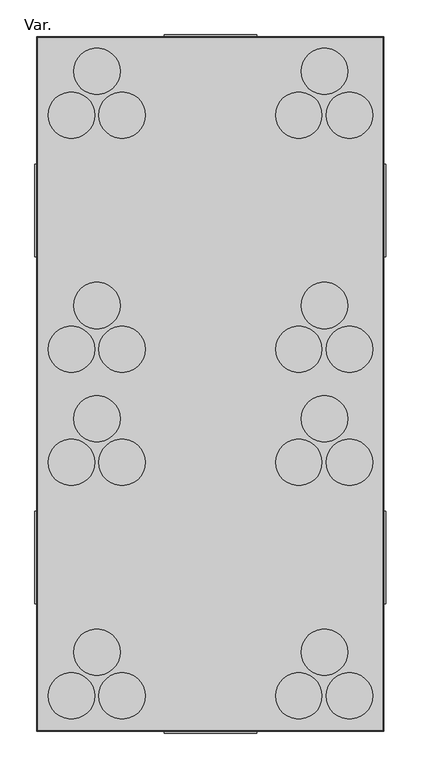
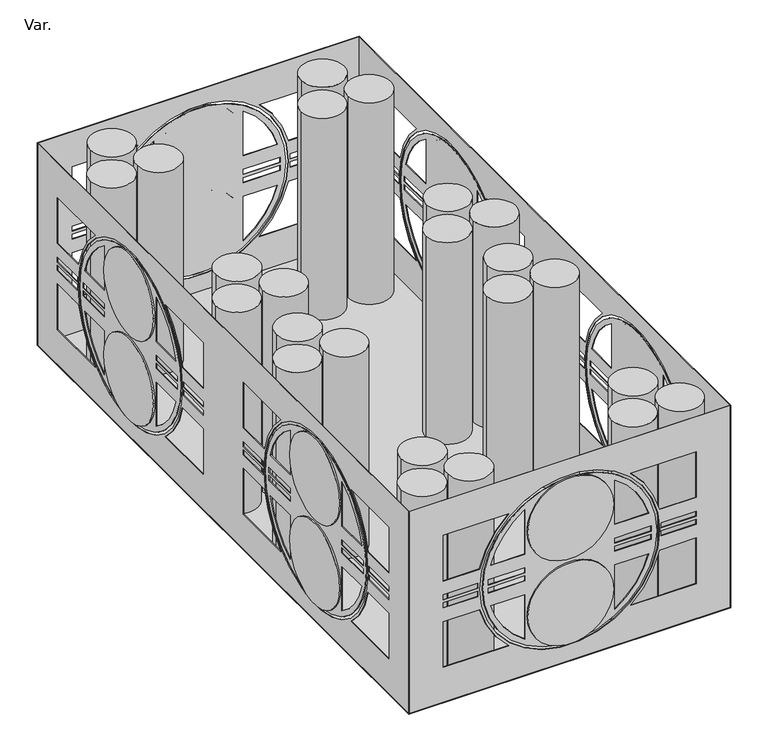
"""IFC4 building model written with IfcOpenShell, lengths in millimetres: proxy geometry, AmancoWavin_AquaCell NG : Var.."""

from ifc_helpers import new_model, si_unit, point, frame, frame_2d, origin, origin_with_axes, place, context, project, spatial, polyline, circle_curve, trimmed, segment, composite_curve, outline, extrude, source, transform, mapped, element, save


def var_ef881a78(model_context):
    return source(origin(), model_context, "Body", "SweptSolid", [
        extrude(outline(composite_curve([segment(trimmed(circle_curve(frame_2d((-300.0, 283.75)), 80.0), [point((-380.0, 283.75))], [point((-220.0, 283.75))], False, "CARTESIAN"), True, "CONTINUOUS"), segment(trimmed(circle_curve(frame_2d((-300.0, 283.75)), 80.0), [point((-220.0, 283.75))], [point((-380.0, 283.75))], False, "CARTESIAN"), True, "CONTINUOUS")], self_intersect=False)), frame((-303.0, 0.0, 0.0), z_axis=(1.0, 0.0, 0.0), x_axis=(0.0, 1.0, 0.0)), (0.0, 0.0, 1.0), 3.0),
        extrude(outline(composite_curve([segment(trimmed(circle_curve(frame_2d((300.0, 283.75)), 80.0), [point((220.0, 283.75))], [point((380.0, 283.75))], False, "CARTESIAN"), True, "CONTINUOUS"), segment(trimmed(circle_curve(frame_2d((300.0, 283.75)), 80.0), [point((380.0, 283.75))], [point((220.0, 283.75))], False, "CARTESIAN"), True, "CONTINUOUS")], self_intersect=False)), frame((-303.0, 0.0, 0.0), z_axis=(1.0, 0.0, 0.0), x_axis=(0.0, 1.0, 0.0)), (0.0, 0.0, 1.0), 3.0),
        extrude(outline(composite_curve([segment(trimmed(circle_curve(frame_2d((300.0, 116.25)), 80.0), [point((220.0, 116.25))], [point((380.0, 116.25))], False, "CARTESIAN"), True, "CONTINUOUS"), segment(trimmed(circle_curve(frame_2d((300.0, 116.25)), 80.0), [point((380.0, 116.25))], [point((220.0, 116.25))], False, "CARTESIAN"), True, "CONTINUOUS")], self_intersect=False)), frame((-303.0, 0.0, 0.0), z_axis=(1.0, 0.0, 0.0), x_axis=(0.0, 1.0, 0.0)), (0.0, 0.0, 1.0), 3.0),
        extrude(outline(composite_curve([segment(trimmed(circle_curve(frame_2d((-300.0, 116.25)), 80.0), [point((-380.0, 116.25))], [point((-220.0, 116.25))], False, "CARTESIAN"), True, "CONTINUOUS"), segment(trimmed(circle_curve(frame_2d((-300.0, 116.25)), 80.0), [point((-220.0, 116.25))], [point((-380.0, 116.25))], False, "CARTESIAN"), True, "CONTINUOUS")], self_intersect=False)), frame((-303.0, 0.0, 0.0), z_axis=(1.0, 0.0, 0.0), x_axis=(0.0, 1.0, 0.0)), (0.0, 0.0, 1.0), 3.0),
        extrude(outline(composite_curve([segment(trimmed(circle_curve(frame_2d((-300.0, 283.75)), 80.0), [point((-380.0, 283.75))], [point((-220.0, 283.75))], False, "CARTESIAN"), True, "CONTINUOUS"), segment(trimmed(circle_curve(frame_2d((-300.0, 283.75)), 80.0), [point((-220.0, 283.75))], [point((-380.0, 283.75))], False, "CARTESIAN"), True, "CONTINUOUS")], self_intersect=False)), frame((300.0, 0.0, 0.0), z_axis=(1.0, 0.0, 0.0), x_axis=(0.0, 1.0, 0.0)), (0.0, 0.0, 1.0), 3.0),
        extrude(outline(composite_curve([segment(trimmed(circle_curve(frame_2d((300.0, 283.75)), 80.0), [point((220.0, 283.75))], [point((380.0, 283.75))], False, "CARTESIAN"), True, "CONTINUOUS"), segment(trimmed(circle_curve(frame_2d((300.0, 283.75)), 80.0), [point((380.0, 283.75))], [point((220.0, 283.75))], False, "CARTESIAN"), True, "CONTINUOUS")], self_intersect=False)), frame((300.0, 0.0, 0.0), z_axis=(1.0, 0.0, 0.0), x_axis=(0.0, 1.0, 0.0)), (0.0, 0.0, 1.0), 3.0),
        extrude(outline(composite_curve([segment(trimmed(circle_curve(frame_2d((-300.0, 116.25)), 80.0), [point((-380.0, 116.25))], [point((-220.0, 116.25))], False, "CARTESIAN"), True, "CONTINUOUS"), segment(trimmed(circle_curve(frame_2d((-300.0, 116.25)), 80.0), [point((-220.0, 116.25))], [point((-380.0, 116.25))], False, "CARTESIAN"), True, "CONTINUOUS")], self_intersect=False)), frame((300.0, 0.0, 0.0), z_axis=(1.0, 0.0, 0.0), x_axis=(0.0, 1.0, 0.0)), (0.0, 0.0, 1.0), 3.0),
        extrude(outline(composite_curve([segment(trimmed(circle_curve(frame_2d((300.0, 116.25)), 80.0), [point((220.0, 116.25))], [point((380.0, 116.25))], False, "CARTESIAN"), True, "CONTINUOUS"), segment(trimmed(circle_curve(frame_2d((300.0, 116.25)), 80.0), [point((380.0, 116.25))], [point((220.0, 116.25))], False, "CARTESIAN"), True, "CONTINUOUS")], self_intersect=False)), frame((300.0, 0.0, 0.0), z_axis=(1.0, 0.0, 0.0), x_axis=(0.0, 1.0, 0.0)), (0.0, 0.0, 1.0), 3.0),
        extrude(outline(composite_curve([segment(trimmed(circle_curve(frame_2d((283.75, 0.0)), 80.0), [point((283.75, -80.0))], [point((283.75, 80.0))], False, "CARTESIAN"), True, "CONTINUOUS"), segment(trimmed(circle_curve(frame_2d((283.75, 0.0)), 80.0), [point((283.75, 80.0))], [point((283.75, -80.0))], False, "CARTESIAN"), True, "CONTINUOUS")], self_intersect=False)), frame((0.0, 600.0, 0.0), z_axis=(0.0, 1.0, 0.0), x_axis=(0.0, 0.0, 1.0)), (0.0, 0.0, 1.0), 3.0),
        extrude(outline(composite_curve([segment(trimmed(circle_curve(frame_2d((116.25, 0.0)), 80.0), [point((116.25, -80.0))], [point((116.25, 80.0))], False, "CARTESIAN"), True, "CONTINUOUS"), segment(trimmed(circle_curve(frame_2d((116.25, 0.0)), 80.0), [point((116.25, 80.0))], [point((116.25, -80.0))], False, "CARTESIAN"), True, "CONTINUOUS")], self_intersect=False)), frame((0.0, 600.0, 0.0), z_axis=(0.0, 1.0, 0.0), x_axis=(0.0, 0.0, 1.0)), (0.0, 0.0, 1.0), 3.0),
        extrude(outline(composite_curve([segment(trimmed(circle_curve(frame_2d((283.75, 0.0)), 80.0), [point((283.75, -80.0))], [point((283.75, 80.0))], False, "CARTESIAN"), True, "CONTINUOUS"), segment(trimmed(circle_curve(frame_2d((283.75, 0.0)), 80.0), [point((283.75, 80.0))], [point((283.75, -80.0))], False, "CARTESIAN"), True, "CONTINUOUS")], self_intersect=False)), frame((0.0, -603.0, 0.0), z_axis=(0.0, 1.0, 0.0), x_axis=(0.0, 0.0, 1.0)), (0.0, 0.0, 1.0), 3.0),
        extrude(outline(composite_curve([segment(trimmed(circle_curve(frame_2d((116.25, 0.0)), 80.0), [point((116.25, -80.0))], [point((116.25, 80.0))], False, "CARTESIAN"), True, "CONTINUOUS"), segment(trimmed(circle_curve(frame_2d((116.25, 0.0)), 80.0), [point((116.25, 80.0))], [point((116.25, -80.0))], False, "CARTESIAN"), True, "CONTINUOUS")], self_intersect=False)), frame((0.0, -603.0, 0.0), z_axis=(0.0, 1.0, 0.0), x_axis=(0.0, 0.0, 1.0)), (0.0, 0.0, 1.0), 3.0),
        extrude(outline(polyline([(300.0, 600.0), (300.0, -600.0), (-300.0, -600.0), (-300.0, 600.0), (300.0, 600.0)])), origin_with_axes(), (0.0, 0.0, 1.0), 1.0),
        extrude(outline(polyline([(399.0, 300.0), (399.0, -300.0), (0.0, -300.0), (0.0, 300.0), (399.0, 300.0)]), holes=[composite_curve([segment(polyline([(240.0, 235.6231509), (240.0, 167.7982419)]), True, "CONTINUOUS"), segment(trimmed(circle_curve(frame_2d((200.0, 0.0)), 172.5), [point((240.0, 167.7982419))], [point((330.0, 113.3854047))], False, "CARTESIAN"), True, "CONTINUOUS"), segment(polyline([(330.0, 113.3854047), (330.0, 235.6231509), (240.0, 235.6231509)]), True, "CONTINUOUS")], self_intersect=False), composite_curve([segment(trimmed(circle_curve(frame_2d((200.0, 0.0)), 167.5), [point((200.0, 167.5))], [point((200.0, -167.5))], True, "CARTESIAN"), True, "CONTINUOUS"), segment(trimmed(circle_curve(frame_2d((200.0, 0.0)), 167.5), [point((200.0, -167.5))], [point((200.0, 167.5))], True, "CARTESIAN"), True, "CONTINUOUS")], self_intersect=False), polyline([(213.0, 235.6231509), (203.0, 235.6231509), (203.0, 171.1131509), (213.0, 171.1131509), (213.0, 235.6231509)]), polyline([(187.0, 235.6231509), (187.0, 171.1131509), (197.0, 171.1131509), (197.0, 235.6231509), (187.0, 235.6231509)]), composite_curve([segment(polyline([(70.0, 235.6231509), (70.0, 113.3854047)]), True, "CONTINUOUS"), segment(trimmed(circle_curve(frame_2d((200.0, 0.0)), 172.5), [point((70.0, 113.3854047))], [point((160.0, 167.7982419))], False, "CARTESIAN"), True, "CONTINUOUS"), segment(polyline([(160.0, 167.7982419), (160.0, 235.6231509), (70.0, 235.6231509)]), True, "CONTINUOUS")], self_intersect=False), composite_curve([segment(trimmed(circle_curve(frame_2d((200.0, 0.0)), 172.5), [point((160.0, -167.7982419))], [point((70.0, -113.3854047))], False, "CARTESIAN"), True, "CONTINUOUS"), segment(polyline([(70.0, -113.3854047), (70.0, -235.6231509), (160.0, -235.6231509), (160.0, -167.7982419)]), True, "CONTINUOUS")], self_intersect=False), polyline([(213.0, -235.6231509), (213.0, -171.1131509), (203.0, -171.1131509), (203.0, -235.6231509), (213.0, -235.6231509)]), polyline([(197.0, -235.6231509), (197.0, -171.1131509), (187.0, -171.1131509), (187.0, -235.6231509), (197.0, -235.6231509)]), composite_curve([segment(polyline([(240.0, -167.7982419), (240.0, -235.6231509), (330.0, -235.6231509), (330.0, -113.3854047)]), True, "CONTINUOUS"), segment(trimmed(circle_curve(frame_2d((200.0, 0.0)), 172.5), [point((330.0, -113.3854047))], [point((240.0, -167.7982419))], False, "CARTESIAN"), True, "CONTINUOUS")], self_intersect=False)]), frame((0.0, 599.0, 0.0), z_axis=(0.0, 1.0, 0.0), x_axis=(0.0, 0.0, 1.0)), (0.0, 0.0, 1.0), 1.0),
        extrude(outline(composite_curve([segment(trimmed(circle_curve(frame_2d((200.0, 0.0)), 162.5), [point((200.0, -162.5))], [point((200.0, 162.5))], False, "CARTESIAN"), True, "CONTINUOUS"), segment(trimmed(circle_curve(frame_2d((200.0, 0.0)), 162.5), [point((200.0, 162.5))], [point((200.0, -162.5))], False, "CARTESIAN"), True, "CONTINUOUS")], self_intersect=False), holes=[composite_curve([segment(polyline([(72.5123968, 83.6848913), (160.0, 83.6848913), (160.0, 147.1606265)]), True, "CONTINUOUS"), segment(trimmed(circle_curve(frame_2d((200.0, 0.0)), 152.5), [point((160.0, 147.1606265))], [point((72.5123968, 83.6848913))], True, "CARTESIAN"), True, "CONTINUOUS")], self_intersect=False), polyline([(203.0, 151.9448913), (203.0, 83.6848913), (213.0, 83.6848913), (213.0, 151.9448913), (203.0, 151.9448913)]), polyline([(197.0, 83.6848913), (197.0, 151.9448913), (187.0, 151.9448913), (187.0, 83.6848913), (197.0, 83.6848913)]), composite_curve([segment(polyline([(240.0, 147.1606265), (240.0, 83.6848913), (327.4876032, 83.6848913)]), True, "CONTINUOUS"), segment(trimmed(circle_curve(frame_2d((200.0, 0.0)), 152.5), [point((327.4876032, 83.6848913))], [point((240.0, 147.1606265))], True, "CARTESIAN"), True, "CONTINUOUS")], self_intersect=False), composite_curve([segment(trimmed(circle_curve(frame_2d((200.0, 0.0)), 152.5), [point((72.5123968, -83.6848913))], [point((160.0, -147.1606265))], True, "CARTESIAN"), True, "CONTINUOUS"), segment(polyline([(160.0, -147.1606265), (160.0, -83.6848913), (72.5123968, -83.6848913)]), True, "CONTINUOUS")], self_intersect=False), composite_curve([segment(polyline([(240.0, -83.6848913), (240.0, -147.1606265)]), True, "CONTINUOUS"), segment(trimmed(circle_curve(frame_2d((200.0, 0.0)), 152.5), [point((240.0, -147.1606265))], [point((327.4876032, -83.6848913))], True, "CARTESIAN"), True, "CONTINUOUS"), segment(polyline([(327.4876032, -83.6848913), (240.0, -83.6848913)]), True, "CONTINUOUS")], self_intersect=False), polyline([(213.0, -83.6848913), (203.0, -83.6848913), (203.0, -151.9448913), (213.0, -151.9448913), (213.0, -83.6848913)]), polyline([(197.0, -151.9448913), (197.0, -83.6848913), (187.0, -83.6848913), (187.0, -151.9448913), (197.0, -151.9448913)])]), frame((0.0, 599.0, 0.0), z_axis=(0.0, 1.0, 0.0), x_axis=(0.0, 0.0, 1.0)), (0.0, 0.0, 1.0), 1.0),
        extrude(outline(polyline([(600.0, 399.0), (600.0, 0.0), (-600.0, 0.0), (-600.0, 399.0), (600.0, 399.0)]), holes=[composite_curve([segment(polyline([(535.6231509, 240.0), (535.6231509, 330.0), (413.3854047, 330.0)]), True, "CONTINUOUS"), segment(trimmed(circle_curve(frame_2d((300.0, 200.0)), 172.5), [point((413.3854047, 330.0))], [point((467.7982419, 240.0))], False, "CARTESIAN"), True, "CONTINUOUS"), segment(polyline([(467.7982419, 240.0), (535.6231509, 240.0)]), True, "CONTINUOUS")], self_intersect=False), composite_curve([segment(trimmed(circle_curve(frame_2d((300.0, 200.0)), 167.5), [point((467.5, 200.0))], [point((132.5, 200.0))], True, "CARTESIAN"), True, "CONTINUOUS"), segment(trimmed(circle_curve(frame_2d((300.0, 200.0)), 167.5), [point((132.5, 200.0))], [point((467.5, 200.0))], True, "CARTESIAN"), True, "CONTINUOUS")], self_intersect=False), polyline([(535.6231509, 203.0), (535.6231509, 213.0), (471.0344201, 213.0), (471.0344201, 203.0), (535.6231509, 203.0)]), polyline([(535.6231509, 197.0), (471.0344201, 197.0), (471.0344201, 187.0), (535.6231509, 187.0), (535.6231509, 197.0)]), composite_curve([segment(polyline([(535.6231509, 160.0), (467.7982419, 160.0)]), True, "CONTINUOUS"), segment(trimmed(circle_curve(frame_2d((300.0, 200.0)), 172.5), [point((467.7982419, 160.0))], [point((413.3854047, 70.0))], False, "CARTESIAN"), True, "CONTINUOUS"), segment(polyline([(413.3854047, 70.0), (535.6231509, 70.0), (535.6231509, 160.0)]), True, "CONTINUOUS")], self_intersect=False), composite_curve([segment(polyline([(132.2017581, 160.0), (64.3768491, 160.0), (64.3768491, 70.0), (186.6145953, 70.0)]), True, "CONTINUOUS"), segment(trimmed(circle_curve(frame_2d((300.0, 200.0)), 172.5), [point((186.6145953, 70.0))], [point((132.2017581, 160.0))], False, "CARTESIAN"), True, "CONTINUOUS")], self_intersect=False), polyline([(129.5146487, 203.0), (129.5146487, 213.0), (64.3768491, 213.0), (64.3768491, 203.0), (129.5146487, 203.0)]), polyline([(129.5146487, 197.0), (64.3768491, 197.0), (64.3768491, 187.0), (129.5146487, 187.0), (129.5146487, 197.0)]), composite_curve([segment(polyline([(186.6145953, 330.0), (64.3768491, 330.0), (64.3768491, 240.0), (132.2017581, 240.0)]), True, "CONTINUOUS"), segment(trimmed(circle_curve(frame_2d((300.0, 200.0)), 172.5), [point((132.2017581, 240.0))], [point((186.6145953, 330.0))], False, "CARTESIAN"), True, "CONTINUOUS")], self_intersect=False), composite_curve([segment(polyline([(-64.3768491, 240.0), (-64.3768491, 330.0), (-186.6145953, 330.0)]), True, "CONTINUOUS"), segment(trimmed(circle_curve(frame_2d((-300.0, 200.0)), 172.5), [point((-186.6145953, 330.0))], [point((-132.2017581, 240.0))], False, "CARTESIAN"), True, "CONTINUOUS"), segment(polyline([(-132.2017581, 240.0), (-64.3768491, 240.0)]), True, "CONTINUOUS")], self_intersect=False), composite_curve([segment(trimmed(circle_curve(frame_2d((-300.0, 200.0)), 167.5), [point((-132.5, 200.0))], [point((-467.5, 200.0))], True, "CARTESIAN"), True, "CONTINUOUS"), segment(trimmed(circle_curve(frame_2d((-300.0, 200.0)), 167.5), [point((-467.5, 200.0))], [point((-132.5, 200.0))], True, "CARTESIAN"), True, "CONTINUOUS")], self_intersect=False), polyline([(-64.3768491, 203.0), (-64.3768491, 213.0), (-128.9655799, 213.0), (-128.9655799, 203.0), (-64.3768491, 203.0)]), polyline([(-64.3768491, 197.0), (-128.9655799, 197.0), (-128.9655799, 187.0), (-64.3768491, 187.0), (-64.3768491, 197.0)]), composite_curve([segment(polyline([(-64.3768491, 160.0), (-132.2017581, 160.0)]), True, "CONTINUOUS"), segment(trimmed(circle_curve(frame_2d((-300.0, 200.0)), 172.5), [point((-132.2017581, 160.0))], [point((-186.6145953, 70.0))], False, "CARTESIAN"), True, "CONTINUOUS"), segment(polyline([(-186.6145953, 70.0), (-64.3768491, 70.0), (-64.3768491, 160.0)]), True, "CONTINUOUS")], self_intersect=False), composite_curve([segment(polyline([(-467.7982419, 160.0), (-535.6231509, 160.0), (-535.6231509, 70.0), (-413.3854047, 70.0)]), True, "CONTINUOUS"), segment(trimmed(circle_curve(frame_2d((-300.0, 200.0)), 172.5), [point((-413.3854047, 70.0))], [point((-467.7982419, 160.0))], False, "CARTESIAN"), True, "CONTINUOUS")], self_intersect=False), polyline([(-470.4853513, 203.0), (-470.4853513, 213.0), (-535.6231509, 213.0), (-535.6231509, 203.0), (-470.4853513, 203.0)]), polyline([(-470.4853513, 197.0), (-535.6231509, 197.0), (-535.6231509, 187.0), (-470.4853513, 187.0), (-470.4853513, 197.0)]), composite_curve([segment(polyline([(-413.3854047, 330.0), (-535.6231509, 330.0), (-535.6231509, 240.0), (-467.7982419, 240.0)]), True, "CONTINUOUS"), segment(trimmed(circle_curve(frame_2d((-300.0, 200.0)), 172.5), [point((-467.7982419, 240.0))], [point((-413.3854047, 330.0))], False, "CARTESIAN"), True, "CONTINUOUS")], self_intersect=False)]), frame((-300.0, 0.0, 0.0), z_axis=(1.0, 0.0, 0.0), x_axis=(0.0, 1.0, 0.0)), (0.0, 0.0, 1.0), 1.0),
        extrude(outline(composite_curve([segment(trimmed(circle_curve(frame_2d((300.0, 200.0)), 162.5), [point((137.5, 200.0))], [point((462.5, 200.0))], False, "CARTESIAN"), True, "CONTINUOUS"), segment(trimmed(circle_curve(frame_2d((300.0, 200.0)), 162.5), [point((462.5, 200.0))], [point((137.5, 200.0))], False, "CARTESIAN"), True, "CONTINUOUS")], self_intersect=False), holes=[composite_curve([segment(trimmed(circle_curve(frame_2d((300.0, 200.0)), 152.5), [point((383.6820918, 72.5105592))], [point((447.1606265, 160.0))], True, "CARTESIAN"), True, "CONTINUOUS"), segment(polyline([(447.1606265, 160.0), (383.6820918, 160.0), (383.6820918, 72.5105592)]), True, "CONTINUOUS")], self_intersect=False), polyline([(383.6820918, 213.0), (383.6820918, 203.0), (451.9448913, 203.0), (451.9448913, 213.0), (383.6820918, 213.0)]), polyline([(451.9448913, 187.0), (451.9448913, 197.0), (383.6820918, 197.0), (383.6820918, 187.0), (451.9448913, 187.0)]), composite_curve([segment(trimmed(circle_curve(frame_2d((300.0, 200.0)), 152.5), [point((447.1606265, 240.0))], [point((383.6820918, 327.4894408))], True, "CARTESIAN"), True, "CONTINUOUS"), segment(polyline([(383.6820918, 327.4894408), (383.6820918, 240.0), (447.1606265, 240.0)]), True, "CONTINUOUS")], self_intersect=False), composite_curve([segment(polyline([(216.3179082, 160.0), (152.8393735, 160.0)]), True, "CONTINUOUS"), segment(trimmed(circle_curve(frame_2d((300.0, 200.0)), 152.5), [point((152.8393735, 160.0))], [point((216.3179082, 72.5105592))], True, "CARTESIAN"), True, "CONTINUOUS"), segment(polyline([(216.3179082, 72.5105592), (216.3179082, 160.0)]), True, "CONTINUOUS")], self_intersect=False), polyline([(216.3179082, 203.0), (216.3179082, 213.0), (148.0551087, 213.0), (148.0551087, 203.0), (216.3179082, 203.0)]), polyline([(216.3179082, 187.0), (216.3179082, 197.0), (148.0551087, 197.0), (148.0551087, 187.0), (216.3179082, 187.0)]), composite_curve([segment(polyline([(216.3179082, 240.0), (216.3179082, 327.4894408)]), True, "CONTINUOUS"), segment(trimmed(circle_curve(frame_2d((300.0, 200.0)), 152.5), [point((216.3179082, 327.4894408))], [point((152.8393735, 240.0))], True, "CARTESIAN"), True, "CONTINUOUS"), segment(polyline([(152.8393735, 240.0), (216.3179082, 240.0)]), True, "CONTINUOUS")], self_intersect=False)]), frame((-300.0, 0.0, 0.0), z_axis=(1.0, 0.0, 0.0), x_axis=(0.0, 1.0, 0.0)), (0.0, 0.0, 1.0), 1.0),
        extrude(outline(composite_curve([segment(trimmed(circle_curve(frame_2d((-300.0, 200.0)), 162.5), [point((-462.5, 200.0))], [point((-137.5, 200.0))], False, "CARTESIAN"), True, "CONTINUOUS"), segment(trimmed(circle_curve(frame_2d((-300.0, 200.0)), 162.5), [point((-137.5, 200.0))], [point((-462.5, 200.0))], False, "CARTESIAN"), True, "CONTINUOUS")], self_intersect=False), holes=[composite_curve([segment(trimmed(circle_curve(frame_2d((-300.0, 200.0)), 152.5), [point((-216.3179082, 72.5105592))], [point((-152.8393735, 160.0))], True, "CARTESIAN"), True, "CONTINUOUS"), segment(polyline([(-152.8393735, 160.0), (-216.3179082, 160.0), (-216.3179082, 72.5105592)]), True, "CONTINUOUS")], self_intersect=False), polyline([(-216.3179082, 213.0), (-216.3179082, 203.0), (-148.0551087, 203.0), (-148.0551087, 213.0), (-216.3179082, 213.0)]), polyline([(-148.0551087, 187.0), (-148.0551087, 197.0), (-216.3179082, 197.0), (-216.3179082, 187.0), (-148.0551087, 187.0)]), composite_curve([segment(trimmed(circle_curve(frame_2d((-300.0, 200.0)), 152.5), [point((-152.8393735, 240.0))], [point((-216.3179082, 327.4894408))], True, "CARTESIAN"), True, "CONTINUOUS"), segment(polyline([(-216.3179082, 327.4894408), (-216.3179082, 240.0), (-152.8393735, 240.0)]), True, "CONTINUOUS")], self_intersect=False), composite_curve([segment(polyline([(-383.6820918, 160.0), (-447.1606265, 160.0)]), True, "CONTINUOUS"), segment(trimmed(circle_curve(frame_2d((-300.0, 200.0)), 152.5), [point((-447.1606265, 160.0))], [point((-383.6820918, 72.5105592))], True, "CARTESIAN"), True, "CONTINUOUS"), segment(polyline([(-383.6820918, 72.5105592), (-383.6820918, 160.0)]), True, "CONTINUOUS")], self_intersect=False), polyline([(-383.6820918, 203.0), (-383.6820918, 213.0), (-451.9448913, 213.0), (-451.9448913, 203.0), (-383.6820918, 203.0)]), polyline([(-383.6820918, 187.0), (-383.6820918, 197.0), (-451.9448913, 197.0), (-451.9448913, 187.0), (-383.6820918, 187.0)]), composite_curve([segment(polyline([(-383.6820918, 240.0), (-383.6820918, 327.4894408)]), True, "CONTINUOUS"), segment(trimmed(circle_curve(frame_2d((-300.0, 200.0)), 152.5), [point((-383.6820918, 327.4894408))], [point((-447.1606265, 240.0))], True, "CARTESIAN"), True, "CONTINUOUS"), segment(polyline([(-447.1606265, 240.0), (-383.6820918, 240.0)]), True, "CONTINUOUS")], self_intersect=False)]), frame((-300.0, 0.0, 0.0), z_axis=(1.0, 0.0, 0.0), x_axis=(0.0, 1.0, 0.0)), (0.0, 0.0, 1.0), 1.0),
        extrude(outline(polyline([(600.0, 399.0), (600.0, 0.0), (-600.0, 0.0), (-600.0, 399.0), (600.0, 399.0)]), holes=[composite_curve([segment(polyline([(-413.3854047, 330.0), (-535.6231509, 330.0), (-535.6231509, 240.0), (-467.7982419, 240.0)]), True, "CONTINUOUS"), segment(trimmed(circle_curve(frame_2d((-300.0, 200.0)), 172.5), [point((-467.7982419, 240.0))], [point((-413.3854047, 330.0))], False, "CARTESIAN"), True, "CONTINUOUS")], self_intersect=False), polyline([(-470.4853513, 213.0), (-535.6231509, 213.0), (-535.6231509, 203.0), (-470.4853513, 203.0), (-470.4853513, 213.0)]), polyline([(-470.4853513, 187.0), (-470.4853513, 197.0), (-535.6231509, 197.0), (-535.6231509, 187.0), (-470.4853513, 187.0)]), composite_curve([segment(polyline([(-467.7982419, 160.0), (-535.6231509, 160.0), (-535.6231509, 70.0), (-413.3854047, 70.0)]), True, "CONTINUOUS"), segment(trimmed(circle_curve(frame_2d((-300.0, 200.0)), 172.5), [point((-413.3854047, 70.0))], [point((-467.7982419, 160.0))], False, "CARTESIAN"), True, "CONTINUOUS")], self_intersect=False), polyline([(-128.9655799, 213.0), (-128.9655799, 203.0), (-64.3768491, 203.0), (-64.3768491, 213.0), (-128.9655799, 213.0)]), polyline([(-128.9655799, 197.0), (-128.9655799, 187.0), (-64.3768491, 187.0), (-64.3768491, 197.0), (-128.9655799, 197.0)]), composite_curve([segment(polyline([(-64.3768491, 160.0), (-132.2017581, 160.0)]), True, "CONTINUOUS"), segment(trimmed(circle_curve(frame_2d((-300.0, 200.0)), 172.5), [point((-132.2017581, 160.0))], [point((-186.6145953, 70.0))], False, "CARTESIAN"), True, "CONTINUOUS"), segment(polyline([(-186.6145953, 70.0), (-64.3768491, 70.0), (-64.3768491, 160.0)]), True, "CONTINUOUS")], self_intersect=False), composite_curve([segment(polyline([(-64.3768491, 330.0), (-186.6145953, 330.0)]), True, "CONTINUOUS"), segment(trimmed(circle_curve(frame_2d((-300.0, 200.0)), 172.5), [point((-186.6145953, 330.0))], [point((-132.2017581, 240.0))], False, "CARTESIAN"), True, "CONTINUOUS"), segment(polyline([(-132.2017581, 240.0), (-64.3768491, 240.0), (-64.3768491, 330.0)]), True, "CONTINUOUS")], self_intersect=False), composite_curve([segment(trimmed(circle_curve(frame_2d((-300.0, 200.0)), 167.5), [point((-132.5, 200.0))], [point((-467.5, 200.0))], True, "CARTESIAN"), True, "CONTINUOUS"), segment(trimmed(circle_curve(frame_2d((-300.0, 200.0)), 167.5), [point((-467.5, 200.0))], [point((-132.5, 200.0))], True, "CARTESIAN"), True, "CONTINUOUS")], self_intersect=False), composite_curve([segment(polyline([(186.6145953, 330.0), (64.3768491, 330.0), (64.3768491, 240.0), (132.2017581, 240.0)]), True, "CONTINUOUS"), segment(trimmed(circle_curve(frame_2d((300.0, 200.0)), 172.5), [point((132.2017581, 240.0))], [point((186.6145953, 330.0))], False, "CARTESIAN"), True, "CONTINUOUS")], self_intersect=False), polyline([(129.5146487, 213.0), (64.3768491, 213.0), (64.3768491, 203.0), (129.5146487, 203.0), (129.5146487, 213.0)]), polyline([(129.5146487, 187.0), (129.5146487, 197.0), (64.3768491, 197.0), (64.3768491, 187.0), (129.5146487, 187.0)]), composite_curve([segment(polyline([(132.2017581, 160.0), (64.3768491, 160.0), (64.3768491, 70.0), (186.6145953, 70.0)]), True, "CONTINUOUS"), segment(trimmed(circle_curve(frame_2d((300.0, 200.0)), 172.5), [point((186.6145953, 70.0))], [point((132.2017581, 160.0))], False, "CARTESIAN"), True, "CONTINUOUS")], self_intersect=False), polyline([(471.0344201, 213.0), (471.0344201, 203.0), (535.6231509, 203.0), (535.6231509, 213.0), (471.0344201, 213.0)]), polyline([(471.0344201, 197.0), (471.0344201, 187.0), (535.6231509, 187.0), (535.6231509, 197.0), (471.0344201, 197.0)]), composite_curve([segment(polyline([(535.6231509, 160.0), (467.7982419, 160.0)]), True, "CONTINUOUS"), segment(trimmed(circle_curve(frame_2d((300.0, 200.0)), 172.5), [point((467.7982419, 160.0))], [point((413.3854047, 70.0))], False, "CARTESIAN"), True, "CONTINUOUS"), segment(polyline([(413.3854047, 70.0), (535.6231509, 70.0), (535.6231509, 160.0)]), True, "CONTINUOUS")], self_intersect=False), composite_curve([segment(polyline([(535.6231509, 330.0), (413.3854047, 330.0)]), True, "CONTINUOUS"), segment(trimmed(circle_curve(frame_2d((300.0, 200.0)), 172.5), [point((413.3854047, 330.0))], [point((467.7982419, 240.0))], False, "CARTESIAN"), True, "CONTINUOUS"), segment(polyline([(467.7982419, 240.0), (535.6231509, 240.0), (535.6231509, 330.0)]), True, "CONTINUOUS")], self_intersect=False), composite_curve([segment(trimmed(circle_curve(frame_2d((300.0, 200.0)), 167.5), [point((467.5, 200.0))], [point((132.5, 200.0))], True, "CARTESIAN"), True, "CONTINUOUS"), segment(trimmed(circle_curve(frame_2d((300.0, 200.0)), 167.5), [point((132.5, 200.0))], [point((467.5, 200.0))], True, "CARTESIAN"), True, "CONTINUOUS")], self_intersect=False)]), frame((299.0, 0.0, 0.0), z_axis=(1.0, 0.0, 0.0), x_axis=(0.0, 1.0, 0.0)), (0.0, 0.0, 1.0), 1.0),
        extrude(outline(composite_curve([segment(trimmed(circle_curve(frame_2d((-300.0, 200.0)), 162.5), [point((-462.5, 200.0))], [point((-137.5, 200.0))], False, "CARTESIAN"), True, "CONTINUOUS"), segment(trimmed(circle_curve(frame_2d((-300.0, 200.0)), 162.5), [point((-137.5, 200.0))], [point((-462.5, 200.0))], False, "CARTESIAN"), True, "CONTINUOUS")], self_intersect=False), holes=[composite_curve([segment(trimmed(circle_curve(frame_2d((-300.0, 200.0)), 152.5), [point((-383.6820918, 327.4894408))], [point((-447.1606265, 240.0))], True, "CARTESIAN"), True, "CONTINUOUS"), segment(polyline([(-447.1606265, 240.0), (-383.6820918, 240.0), (-383.6820918, 327.4894408)]), True, "CONTINUOUS")], self_intersect=False), polyline([(-383.6820918, 213.0), (-451.9448913, 213.0), (-451.9448913, 203.0), (-383.6820918, 203.0), (-383.6820918, 213.0)]), polyline([(-451.9448913, 197.0), (-451.9448913, 187.0), (-383.6820918, 187.0), (-383.6820918, 197.0), (-451.9448913, 197.0)]), composite_curve([segment(polyline([(-383.6820918, 160.0), (-447.1606265, 160.0)]), True, "CONTINUOUS"), segment(trimmed(circle_curve(frame_2d((-300.0, 200.0)), 152.5), [point((-447.1606265, 160.0))], [point((-383.6820918, 72.5105592))], True, "CARTESIAN"), True, "CONTINUOUS"), segment(polyline([(-383.6820918, 72.5105592), (-383.6820918, 160.0)]), True, "CONTINUOUS")], self_intersect=False), composite_curve([segment(polyline([(-216.3179082, 327.4894408), (-216.3179082, 240.0), (-152.8393735, 240.0)]), True, "CONTINUOUS"), segment(trimmed(circle_curve(frame_2d((-300.0, 200.0)), 152.5), [point((-152.8393735, 240.0))], [point((-216.3179082, 327.4894408))], True, "CARTESIAN"), True, "CONTINUOUS")], self_intersect=False), polyline([(-216.3179082, 213.0), (-216.3179082, 203.0), (-148.0551087, 203.0), (-148.0551087, 213.0), (-216.3179082, 213.0)]), polyline([(-216.3179082, 197.0), (-216.3179082, 187.0), (-148.0551087, 187.0), (-148.0551087, 197.0), (-216.3179082, 197.0)]), composite_curve([segment(polyline([(-216.3179082, 160.0), (-216.3179082, 72.5105592)]), True, "CONTINUOUS"), segment(trimmed(circle_curve(frame_2d((-300.0, 200.0)), 152.5), [point((-216.3179082, 72.5105592))], [point((-152.8393735, 160.0))], True, "CARTESIAN"), True, "CONTINUOUS"), segment(polyline([(-152.8393735, 160.0), (-216.3179082, 160.0)]), True, "CONTINUOUS")], self_intersect=False)]), frame((299.0, 0.0, 0.0), z_axis=(1.0, 0.0, 0.0), x_axis=(0.0, 1.0, 0.0)), (0.0, 0.0, 1.0), 1.0),
        extrude(outline(composite_curve([segment(trimmed(circle_curve(frame_2d((300.0, 200.0)), 162.5), [point((137.5, 200.0))], [point((462.5, 200.0))], False, "CARTESIAN"), True, "CONTINUOUS"), segment(trimmed(circle_curve(frame_2d((300.0, 200.0)), 162.5), [point((462.5, 200.0))], [point((137.5, 200.0))], False, "CARTESIAN"), True, "CONTINUOUS")], self_intersect=False), holes=[composite_curve([segment(trimmed(circle_curve(frame_2d((300.0, 200.0)), 152.5), [point((216.3179082, 327.4894408))], [point((152.8393735, 240.0))], True, "CARTESIAN"), True, "CONTINUOUS"), segment(polyline([(152.8393735, 240.0), (216.3179082, 240.0), (216.3179082, 327.4894408)]), True, "CONTINUOUS")], self_intersect=False), polyline([(216.3179082, 213.0), (148.0551087, 213.0), (148.0551087, 203.0), (216.3179082, 203.0), (216.3179082, 213.0)]), polyline([(148.0551087, 197.0), (148.0551087, 187.0), (216.3179082, 187.0), (216.3179082, 197.0), (148.0551087, 197.0)]), composite_curve([segment(polyline([(216.3179082, 160.0), (152.8393735, 160.0)]), True, "CONTINUOUS"), segment(trimmed(circle_curve(frame_2d((300.0, 200.0)), 152.5), [point((152.8393735, 160.0))], [point((216.3179082, 72.5105592))], True, "CARTESIAN"), True, "CONTINUOUS"), segment(polyline([(216.3179082, 72.5105592), (216.3179082, 160.0)]), True, "CONTINUOUS")], self_intersect=False), composite_curve([segment(polyline([(383.6820918, 327.4894408), (383.6820918, 240.0), (447.1606265, 240.0)]), True, "CONTINUOUS"), segment(trimmed(circle_curve(frame_2d((300.0, 200.0)), 152.5), [point((447.1606265, 240.0))], [point((383.6820918, 327.4894408))], True, "CARTESIAN"), True, "CONTINUOUS")], self_intersect=False), polyline([(383.6820918, 213.0), (383.6820918, 203.0), (451.9448913, 203.0), (451.9448913, 213.0), (383.6820918, 213.0)]), polyline([(383.6820918, 197.0), (383.6820918, 187.0), (451.9448913, 187.0), (451.9448913, 197.0), (383.6820918, 197.0)]), composite_curve([segment(polyline([(383.6820918, 160.0), (383.6820918, 72.5105592)]), True, "CONTINUOUS"), segment(trimmed(circle_curve(frame_2d((300.0, 200.0)), 152.5), [point((383.6820918, 72.5105592))], [point((447.1606265, 160.0))], True, "CARTESIAN"), True, "CONTINUOUS"), segment(polyline([(447.1606265, 160.0), (383.6820918, 160.0)]), True, "CONTINUOUS")], self_intersect=False)]), frame((299.0, 0.0, 0.0), z_axis=(1.0, 0.0, 0.0), x_axis=(0.0, 1.0, 0.0)), (0.0, 0.0, 1.0), 1.0),
        extrude(outline(polyline([(399.0, 300.0), (399.0, -300.0), (0.0, -300.0), (0.0, 300.0), (399.0, 300.0)]), holes=[polyline([(213.0, -171.1131509), (203.0, -171.1131509), (203.0, -235.6231509), (213.0, -235.6231509), (213.0, -171.1131509)]), polyline([(197.0, -171.1131509), (187.0, -171.1131509), (187.0, -235.6231509), (197.0, -235.6231509), (197.0, -171.1131509)]), composite_curve([segment(polyline([(330.0, 113.3854047), (330.0, 235.6231509), (240.0, 235.6231509), (240.0, 167.7982419)]), True, "CONTINUOUS"), segment(trimmed(circle_curve(frame_2d((200.0, 0.0)), 172.5), [point((240.0, 167.7982419))], [point((330.0, 113.3854047))], False, "CARTESIAN"), True, "CONTINUOUS")], self_intersect=False), polyline([(213.0, 171.1131509), (213.0, 235.6231509), (203.0, 235.6231509), (203.0, 171.1131509), (213.0, 171.1131509)]), polyline([(197.0, 171.1131509), (197.0, 235.6231509), (187.0, 235.6231509), (187.0, 171.1131509), (197.0, 171.1131509)]), composite_curve([segment(polyline([(70.0, -113.3854047), (70.0, -235.6231509), (160.0, -235.6231509), (160.0, -167.7982419)]), True, "CONTINUOUS"), segment(trimmed(circle_curve(frame_2d((200.0, 0.0)), 172.5), [point((160.0, -167.7982419))], [point((70.0, -113.3854047))], False, "CARTESIAN"), True, "CONTINUOUS")], self_intersect=False), composite_curve([segment(trimmed(circle_curve(frame_2d((200.0, 0.0)), 172.5), [point((330.0, -113.3854047))], [point((240.0, -167.7982419))], False, "CARTESIAN"), True, "CONTINUOUS"), segment(polyline([(240.0, -167.7982419), (240.0, -235.6231509), (330.0, -235.6231509), (330.0, -113.3854047)]), True, "CONTINUOUS")], self_intersect=False), composite_curve([segment(trimmed(circle_curve(frame_2d((200.0, 0.0)), 172.5), [point((70.0, 113.3854047))], [point((160.0, 167.7982419))], False, "CARTESIAN"), True, "CONTINUOUS"), segment(polyline([(160.0, 167.7982419), (160.0, 235.6231509), (70.0, 235.6231509), (70.0, 113.3854047)]), True, "CONTINUOUS")], self_intersect=False), composite_curve([segment(trimmed(circle_curve(frame_2d((200.0, 0.0)), 167.5), [point((200.0, -167.5))], [point((200.0, 167.5))], True, "CARTESIAN"), True, "CONTINUOUS"), segment(trimmed(circle_curve(frame_2d((200.0, 0.0)), 167.5), [point((200.0, 167.5))], [point((200.0, -167.5))], True, "CARTESIAN"), True, "CONTINUOUS")], self_intersect=False)]), frame((0.0, -600.0, 0.0), z_axis=(0.0, 1.0, 0.0), x_axis=(0.0, 0.0, 1.0)), (0.0, 0.0, 1.0), 1.0),
        extrude(outline(composite_curve([segment(trimmed(circle_curve(frame_2d((200.0, 0.0)), 162.5), [point((200.0, -162.5))], [point((200.0, 162.5))], False, "CARTESIAN"), True, "CONTINUOUS"), segment(trimmed(circle_curve(frame_2d((200.0, 0.0)), 162.5), [point((200.0, 162.5))], [point((200.0, -162.5))], False, "CARTESIAN"), True, "CONTINUOUS")], self_intersect=False), holes=[composite_curve([segment(polyline([(240.0, -83.6848913), (240.0, -147.1606265)]), True, "CONTINUOUS"), segment(trimmed(circle_curve(frame_2d((200.0, 0.0)), 152.5), [point((240.0, -147.1606265))], [point((327.4876032, -83.6848913))], True, "CARTESIAN"), True, "CONTINUOUS"), segment(polyline([(327.4876032, -83.6848913), (240.0, -83.6848913)]), True, "CONTINUOUS")], self_intersect=False), polyline([(213.0, -83.6848913), (203.0, -83.6848913), (203.0, -151.9448913), (213.0, -151.9448913), (213.0, -83.6848913)]), polyline([(197.0, -83.6848913), (187.0, -83.6848913), (187.0, -151.9448913), (197.0, -151.9448913), (197.0, -83.6848913)]), composite_curve([segment(polyline([(240.0, 83.6848913), (327.4876032, 83.6848913)]), True, "CONTINUOUS"), segment(trimmed(circle_curve(frame_2d((200.0, 0.0)), 152.5), [point((327.4876032, 83.6848913))], [point((240.0, 147.1606265))], True, "CARTESIAN"), True, "CONTINUOUS"), segment(polyline([(240.0, 147.1606265), (240.0, 83.6848913)]), True, "CONTINUOUS")], self_intersect=False), polyline([(213.0, 83.6848913), (213.0, 151.9448913), (203.0, 151.9448913), (203.0, 83.6848913), (213.0, 83.6848913)]), polyline([(197.0, 83.6848913), (197.0, 151.9448913), (187.0, 151.9448913), (187.0, 83.6848913), (197.0, 83.6848913)]), composite_curve([segment(polyline([(160.0, -83.6848913), (72.5123968, -83.6848913)]), True, "CONTINUOUS"), segment(trimmed(circle_curve(frame_2d((200.0, 0.0)), 152.5), [point((72.5123968, -83.6848913))], [point((160.0, -147.1606265))], True, "CARTESIAN"), True, "CONTINUOUS"), segment(polyline([(160.0, -147.1606265), (160.0, -83.6848913)]), True, "CONTINUOUS")], self_intersect=False), composite_curve([segment(polyline([(160.0, 83.6848913), (160.0, 147.1606265)]), True, "CONTINUOUS"), segment(trimmed(circle_curve(frame_2d((200.0, 0.0)), 152.5), [point((160.0, 147.1606265))], [point((72.5123968, 83.6848913))], True, "CARTESIAN"), True, "CONTINUOUS"), segment(polyline([(72.5123968, 83.6848913), (160.0, 83.6848913)]), True, "CONTINUOUS")], self_intersect=False)]), frame((0.0, -600.0, 0.0), z_axis=(0.0, 1.0, 0.0), x_axis=(0.0, 0.0, 1.0)), (0.0, 0.0, 1.0), 1.0),
        extrude(outline(composite_curve([segment(trimmed(circle_curve(frame_2d((-195.8861149, 540.0)), 40.0), [point((-155.8861149, 540.0))], [point((-235.8861149, 540.0))], False, "CARTESIAN"), True, "CONTINUOUS"), segment(trimmed(circle_curve(frame_2d((-195.8861149, 540.0)), 40.0), [point((-235.8861149, 540.0))], [point((-155.8861149, 540.0))], False, "CARTESIAN"), True, "CONTINUOUS")], self_intersect=False)), origin_with_axes(), (0.0, 0.0, 1.0), 399.0),
        extrude(outline(composite_curve([segment(trimmed(circle_curve(frame_2d((-240.0, 464.4678365)), 40.0), [point((-200.0, 464.4678365))], [point((-280.0, 464.4678365))], False, "CARTESIAN"), True, "CONTINUOUS"), segment(trimmed(circle_curve(frame_2d((-240.0, 464.4678365)), 40.0), [point((-280.0, 464.4678365))], [point((-200.0, 464.4678365))], False, "CARTESIAN"), True, "CONTINUOUS")], self_intersect=False)), origin_with_axes(), (0.0, 0.0, 1.0), 399.0),
        extrude(outline(composite_curve([segment(trimmed(circle_curve(frame_2d((-152.5, 464.4678365)), 40.0), [point((-112.5, 464.4678365))], [point((-192.5, 464.4678365))], False, "CARTESIAN"), True, "CONTINUOUS"), segment(trimmed(circle_curve(frame_2d((-152.5, 464.4678365)), 40.0), [point((-192.5, 464.4678365))], [point((-112.5, 464.4678365))], False, "CARTESIAN"), True, "CONTINUOUS")], self_intersect=False)), origin_with_axes(), (0.0, 0.0, 1.0), 399.0),
        extrude(outline(composite_curve([segment(trimmed(circle_curve(frame_2d((197.0243033, 540.0)), 40.0), [point((237.0243033, 540.0))], [point((157.0243033, 540.0))], False, "CARTESIAN"), True, "CONTINUOUS"), segment(trimmed(circle_curve(frame_2d((197.0243033, 540.0)), 40.0), [point((157.0243033, 540.0))], [point((237.0243033, 540.0))], False, "CARTESIAN"), True, "CONTINUOUS")], self_intersect=False)), origin_with_axes(), (0.0, 0.0, 1.0), 399.0),
        extrude(outline(composite_curve([segment(trimmed(circle_curve(frame_2d((152.9104182, 464.4678365)), 40.0), [point((192.9104182, 464.4678365))], [point((112.9104182, 464.4678365))], False, "CARTESIAN"), True, "CONTINUOUS"), segment(trimmed(circle_curve(frame_2d((152.9104182, 464.4678365)), 40.0), [point((112.9104182, 464.4678365))], [point((192.9104182, 464.4678365))], False, "CARTESIAN"), True, "CONTINUOUS")], self_intersect=False)), origin_with_axes(), (0.0, 0.0, 1.0), 399.0),
        extrude(outline(composite_curve([segment(trimmed(circle_curve(frame_2d((240.4104182, 464.4678365)), 40.0), [point((280.4104182, 464.4678365))], [point((200.4104182, 464.4678365))], False, "CARTESIAN"), True, "CONTINUOUS"), segment(trimmed(circle_curve(frame_2d((240.4104182, 464.4678365)), 40.0), [point((200.4104182, 464.4678365))], [point((280.4104182, 464.4678365))], False, "CARTESIAN"), True, "CONTINUOUS")], self_intersect=False)), origin_with_axes(), (0.0, 0.0, 1.0), 399.0),
        extrude(outline(composite_curve([segment(trimmed(circle_curve(frame_2d((197.0243033, 135.5321635)), 40.0), [point((237.0243033, 135.5321635))], [point((157.0243033, 135.5321635))], False, "CARTESIAN"), True, "CONTINUOUS"), segment(trimmed(circle_curve(frame_2d((197.0243033, 135.5321635)), 40.0), [point((157.0243033, 135.5321635))], [point((237.0243033, 135.5321635))], False, "CARTESIAN"), True, "CONTINUOUS")], self_intersect=False)), origin_with_axes(), (0.0, 0.0, 1.0), 399.0),
        extrude(outline(composite_curve([segment(trimmed(circle_curve(frame_2d((152.9104182, 60.0)), 40.0), [point((192.9104182, 60.0))], [point((112.9104182, 60.0))], False, "CARTESIAN"), True, "CONTINUOUS"), segment(trimmed(circle_curve(frame_2d((152.9104182, 60.0)), 40.0), [point((112.9104182, 60.0))], [point((192.9104182, 60.0))], False, "CARTESIAN"), True, "CONTINUOUS")], self_intersect=False)), origin_with_axes(), (0.0, 0.0, 1.0), 399.0),
        extrude(outline(composite_curve([segment(trimmed(circle_curve(frame_2d((240.4104182, 60.0)), 40.0), [point((280.4104182, 60.0))], [point((200.4104182, 60.0))], False, "CARTESIAN"), True, "CONTINUOUS"), segment(trimmed(circle_curve(frame_2d((240.4104182, 60.0)), 40.0), [point((200.4104182, 60.0))], [point((280.4104182, 60.0))], False, "CARTESIAN"), True, "CONTINUOUS")], self_intersect=False)), origin_with_axes(), (0.0, 0.0, 1.0), 399.0),
        extrude(outline(composite_curve([segment(trimmed(circle_curve(frame_2d((-195.8861149, 135.5321635)), 40.0), [point((-155.8861149, 135.5321635))], [point((-235.8861149, 135.5321635))], False, "CARTESIAN"), True, "CONTINUOUS"), segment(trimmed(circle_curve(frame_2d((-195.8861149, 135.5321635)), 40.0), [point((-235.8861149, 135.5321635))], [point((-155.8861149, 135.5321635))], False, "CARTESIAN"), True, "CONTINUOUS")], self_intersect=False)), origin_with_axes(), (0.0, 0.0, 1.0), 399.0),
        extrude(outline(composite_curve([segment(trimmed(circle_curve(frame_2d((-240.0, 60.0)), 40.0), [point((-200.0, 60.0))], [point((-280.0, 60.0))], False, "CARTESIAN"), True, "CONTINUOUS"), segment(trimmed(circle_curve(frame_2d((-240.0, 60.0)), 40.0), [point((-280.0, 60.0))], [point((-200.0, 60.0))], False, "CARTESIAN"), True, "CONTINUOUS")], self_intersect=False)), origin_with_axes(), (0.0, 0.0, 1.0), 399.0),
        extrude(outline(composite_curve([segment(trimmed(circle_curve(frame_2d((-152.5, 60.0)), 40.0), [point((-112.5, 60.0))], [point((-192.5, 60.0))], False, "CARTESIAN"), True, "CONTINUOUS"), segment(trimmed(circle_curve(frame_2d((-152.5, 60.0)), 40.0), [point((-192.5, 60.0))], [point((-112.5, 60.0))], False, "CARTESIAN"), True, "CONTINUOUS")], self_intersect=False)), origin_with_axes(), (0.0, 0.0, 1.0), 399.0),
        extrude(outline(composite_curve([segment(trimmed(circle_curve(frame_2d((-195.8861149, -60.0)), 40.0), [point((-155.8861149, -60.0))], [point((-235.8861149, -60.0))], False, "CARTESIAN"), True, "CONTINUOUS"), segment(trimmed(circle_curve(frame_2d((-195.8861149, -60.0)), 40.0), [point((-235.8861149, -60.0))], [point((-155.8861149, -60.0))], False, "CARTESIAN"), True, "CONTINUOUS")], self_intersect=False)), origin_with_axes(), (0.0, 0.0, 1.0), 399.0),
        extrude(outline(composite_curve([segment(trimmed(circle_curve(frame_2d((-240.0, -135.5321635)), 40.0), [point((-200.0, -135.5321635))], [point((-280.0, -135.5321635))], False, "CARTESIAN"), True, "CONTINUOUS"), segment(trimmed(circle_curve(frame_2d((-240.0, -135.5321635)), 40.0), [point((-280.0, -135.5321635))], [point((-200.0, -135.5321635))], False, "CARTESIAN"), True, "CONTINUOUS")], self_intersect=False)), origin_with_axes(), (0.0, 0.0, 1.0), 399.0),
        extrude(outline(composite_curve([segment(trimmed(circle_curve(frame_2d((-152.5, -135.5321635)), 40.0), [point((-112.5, -135.5321635))], [point((-192.5, -135.5321635))], False, "CARTESIAN"), True, "CONTINUOUS"), segment(trimmed(circle_curve(frame_2d((-152.5, -135.5321635)), 40.0), [point((-192.5, -135.5321635))], [point((-112.5, -135.5321635))], False, "CARTESIAN"), True, "CONTINUOUS")], self_intersect=False)), origin_with_axes(), (0.0, 0.0, 1.0), 399.0),
        extrude(outline(composite_curve([segment(trimmed(circle_curve(frame_2d((197.0243033, -60.0)), 40.0), [point((237.0243033, -60.0))], [point((157.0243033, -60.0))], False, "CARTESIAN"), True, "CONTINUOUS"), segment(trimmed(circle_curve(frame_2d((197.0243033, -60.0)), 40.0), [point((157.0243033, -60.0))], [point((237.0243033, -60.0))], False, "CARTESIAN"), True, "CONTINUOUS")], self_intersect=False)), origin_with_axes(), (0.0, 0.0, 1.0), 399.0),
        extrude(outline(composite_curve([segment(trimmed(circle_curve(frame_2d((152.9104182, -135.5321635)), 40.0), [point((192.9104182, -135.5321635))], [point((112.9104182, -135.5321635))], False, "CARTESIAN"), True, "CONTINUOUS"), segment(trimmed(circle_curve(frame_2d((152.9104182, -135.5321635)), 40.0), [point((112.9104182, -135.5321635))], [point((192.9104182, -135.5321635))], False, "CARTESIAN"), True, "CONTINUOUS")], self_intersect=False)), origin_with_axes(), (0.0, 0.0, 1.0), 399.0),
        extrude(outline(composite_curve([segment(trimmed(circle_curve(frame_2d((240.4104182, -135.5321635)), 40.0), [point((280.4104182, -135.5321635))], [point((200.4104182, -135.5321635))], False, "CARTESIAN"), True, "CONTINUOUS"), segment(trimmed(circle_curve(frame_2d((240.4104182, -135.5321635)), 40.0), [point((200.4104182, -135.5321635))], [point((280.4104182, -135.5321635))], False, "CARTESIAN"), True, "CONTINUOUS")], self_intersect=False)), origin_with_axes(), (0.0, 0.0, 1.0), 399.0),
        extrude(outline(composite_curve([segment(trimmed(circle_curve(frame_2d((197.0243033, -463.2809715)), 40.0), [point((237.0243033, -463.2809715))], [point((157.0243033, -463.2809715))], False, "CARTESIAN"), True, "CONTINUOUS"), segment(trimmed(circle_curve(frame_2d((197.0243033, -463.2809715)), 40.0), [point((157.0243033, -463.2809715))], [point((237.0243033, -463.2809715))], False, "CARTESIAN"), True, "CONTINUOUS")], self_intersect=False)), origin_with_axes(), (0.0, 0.0, 1.0), 399.0),
        extrude(outline(composite_curve([segment(trimmed(circle_curve(frame_2d((152.9104182, -538.8131351)), 40.0), [point((192.9104182, -538.8131351))], [point((112.9104182, -538.8131351))], False, "CARTESIAN"), True, "CONTINUOUS"), segment(trimmed(circle_curve(frame_2d((152.9104182, -538.8131351)), 40.0), [point((112.9104182, -538.8131351))], [point((192.9104182, -538.8131351))], False, "CARTESIAN"), True, "CONTINUOUS")], self_intersect=False)), origin_with_axes(), (0.0, 0.0, 1.0), 399.0),
        extrude(outline(composite_curve([segment(trimmed(circle_curve(frame_2d((240.4104182, -538.8131351)), 40.0), [point((280.4104182, -538.8131351))], [point((200.4104182, -538.8131351))], False, "CARTESIAN"), True, "CONTINUOUS"), segment(trimmed(circle_curve(frame_2d((240.4104182, -538.8131351)), 40.0), [point((200.4104182, -538.8131351))], [point((280.4104182, -538.8131351))], False, "CARTESIAN"), True, "CONTINUOUS")], self_intersect=False)), origin_with_axes(), (0.0, 0.0, 1.0), 399.0),
        extrude(outline(composite_curve([segment(trimmed(circle_curve(frame_2d((-195.8861149, -463.2809715)), 40.0), [point((-155.8861149, -463.2809715))], [point((-235.8861149, -463.2809715))], False, "CARTESIAN"), True, "CONTINUOUS"), segment(trimmed(circle_curve(frame_2d((-195.8861149, -463.2809715)), 40.0), [point((-235.8861149, -463.2809715))], [point((-155.8861149, -463.2809715))], False, "CARTESIAN"), True, "CONTINUOUS")], self_intersect=False)), origin_with_axes(), (0.0, 0.0, 1.0), 399.0),
        extrude(outline(composite_curve([segment(trimmed(circle_curve(frame_2d((-240.0, -538.8131351)), 40.0), [point((-200.0, -538.8131351))], [point((-280.0, -538.8131351))], False, "CARTESIAN"), True, "CONTINUOUS"), segment(trimmed(circle_curve(frame_2d((-240.0, -538.8131351)), 40.0), [point((-280.0, -538.8131351))], [point((-200.0, -538.8131351))], False, "CARTESIAN"), True, "CONTINUOUS")], self_intersect=False)), origin_with_axes(), (0.0, 0.0, 1.0), 399.0),
        extrude(outline(composite_curve([segment(trimmed(circle_curve(frame_2d((-152.5, -538.8131351)), 40.0), [point((-112.5, -538.8131351))], [point((-192.5, -538.8131351))], False, "CARTESIAN"), True, "CONTINUOUS"), segment(trimmed(circle_curve(frame_2d((-152.5, -538.8131351)), 40.0), [point((-192.5, -538.8131351))], [point((-112.5, -538.8131351))], False, "CARTESIAN"), True, "CONTINUOUS")], self_intersect=False)), origin_with_axes(), (0.0, 0.0, 1.0), 399.0),
    ])


if __name__ == "__main__":
    model = new_model("IFC4")
    model_context = context("Model", 3, world=origin())
    ifc_project = project(units=[si_unit("LENGTHUNIT", "METRE", prefix="MILLI")], contexts=[model_context])
    site = spatial("IfcSite", under=ifc_project)
    building = spatial("IfcBuilding", under=site)
    placement = place(None, origin())
    var_shape = var_ef881a78(model_context)
    element("IfcBuildingElementProxy", 1, Name="AmancoWavin_AquaCell NG : Var.", ObjectType="AmancoWavin_AquaCell NG : Var.", at=placement, inside=building, context=model_context, shape_type="MappedRepresentation", body=[
        mapped(var_shape, transform((0.0, 0.0, 0.0), x_axis=(1.0, 0.0, 0.0), y_axis=(0.0, 1.0, 0.0), z_axis=(0.0, 0.0, 1.0))),
    ])
    save(model, "model.ifc")
